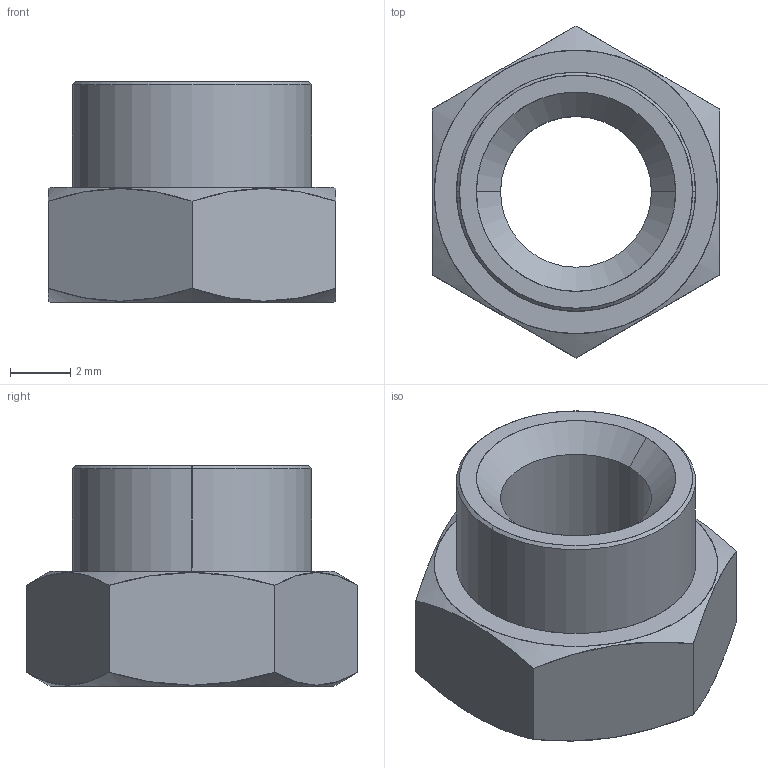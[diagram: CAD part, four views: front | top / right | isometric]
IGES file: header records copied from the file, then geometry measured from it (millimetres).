
Start section: SolidWorks IGES file using analytic representation for surfaces
Global section: file name: C:\Users\liam_\OneDrive\Desktop\Work\Mat Davis Pending 20181125\automotion\P SERIES\P0827.ZP_v2\P0827.ZP_v2_20181231_IGES\P0827.050-10G-ZP.igs; native system: SolidWorks 2017; preprocessor: SolidWorks 2017; author: liam_; date: 181231.110637; units: millimetre
Bounding box: 9.52 x 10.99 x 7.31 mm (x, y, z)
Surface area: 421.5 mm2 (no closed solid volume)
Topology: 0 solids, 0 shells, 23 faces, 376 edges, 376 vertices
Faces by surface type: revolution 14, bspline 9
